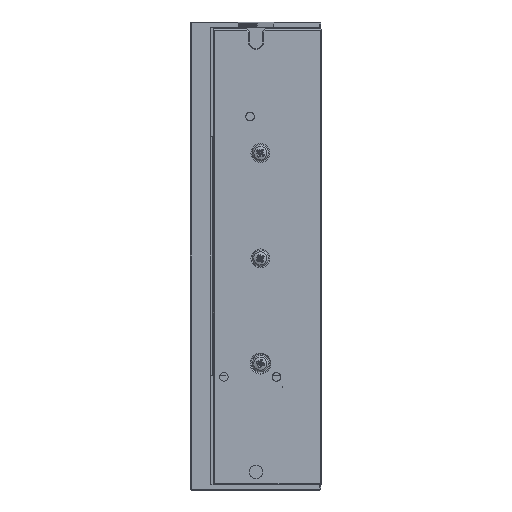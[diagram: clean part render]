
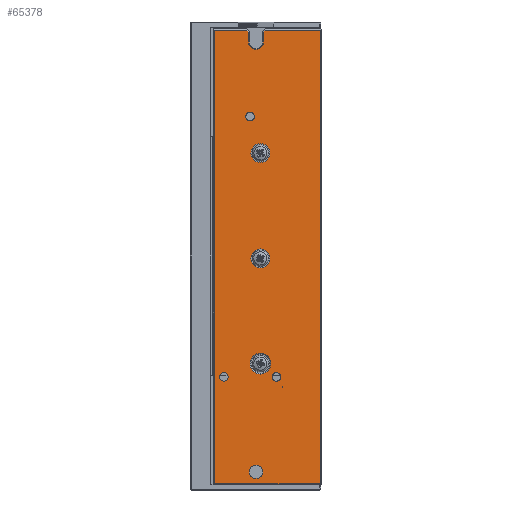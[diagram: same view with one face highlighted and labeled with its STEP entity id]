
A CAD part, front view. The second image highlights one B-rep face of the part: STEP entity #65378.
In plain terms, the highlighted planar face has unit normal (0, -1, 0).
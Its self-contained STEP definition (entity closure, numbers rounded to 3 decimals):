
#5373=FACE_BOUND('',#10188,.T.);
#5374=FACE_BOUND('',#10189,.T.);
#5375=FACE_BOUND('',#10190,.T.);
#5376=FACE_BOUND('',#10191,.T.);
#5377=FACE_BOUND('',#10192,.T.);
#5378=FACE_BOUND('',#10193,.T.);
#5379=FACE_BOUND('',#10194,.T.);
#5380=FACE_BOUND('',#10195,.T.);
#5729=CIRCLE('',#68517,3.55);
#5735=CIRCLE('',#68526,3.25);
#5739=CIRCLE('',#68532,3.25);
#5740=CIRCLE('',#68534,2.25);
#5742=CIRCLE('',#68538,2.55);
#5743=CIRCLE('',#68539,1.5);
#5744=CIRCLE('',#68540,1.5);
#5745=CIRCLE('',#68541,1.5);
#5746=CIRCLE('',#68542,1.5);
#7142=FACE_OUTER_BOUND('',#10187,.T.);
#10187=EDGE_LOOP('',(#47522,#47523,#47524,#47525,#47526,#47527,#47528,#47529,
#47530,#47531));
#10188=EDGE_LOOP('',(#47532));
#10189=EDGE_LOOP('',(#47533));
#10190=EDGE_LOOP('',(#47534));
#10191=EDGE_LOOP('',(#47535));
#10192=EDGE_LOOP('',(#47536));
#10193=EDGE_LOOP('',(#47537));
#10194=EDGE_LOOP('',(#47538,#47539));
#10195=EDGE_LOOP('',(#47540));
#13642=LINE('',#89521,#21365);
#13644=LINE('',#89529,#21367);
#13650=LINE('',#89542,#21373);
#13660=LINE('',#89591,#21383);
#13674=LINE('',#89654,#21397);
#13675=LINE('',#89655,#21398);
#13676=LINE('',#89657,#21399);
#13677=LINE('',#89659,#21400);
#13678=LINE('',#89661,#21401);
#13679=LINE('',#89664,#21402);
#21365=VECTOR('',#73252,36.2);
#21367=VECTOR('',#73260,155.);
#21373=VECTOR('',#73274,155.);
#21383=VECTOR('',#73322,0.159);
#21397=VECTOR('',#73388,0.883);
#21398=VECTOR('',#73389,11.026);
#21399=VECTOR('',#73390,18.826);
#21400=VECTOR('',#73391,0.883);
#21401=VECTOR('',#73392,3.376);
#21402=VECTOR('',#73395,3.376);
#29045=VERTEX_POINT('',#89518);
#29046=VERTEX_POINT('',#89520);
#29049=VERTEX_POINT('',#89527);
#29052=VERTEX_POINT('',#89541);
#29065=VERTEX_POINT('',#89588);
#29066=VERTEX_POINT('',#89590);
#29071=VERTEX_POINT('',#89606);
#29077=VERTEX_POINT('',#89622);
#29081=VERTEX_POINT('',#89633);
#29082=VERTEX_POINT('',#89637);
#29088=VERTEX_POINT('',#89652);
#29089=VERTEX_POINT('',#89653);
#29090=VERTEX_POINT('',#89656);
#29091=VERTEX_POINT('',#89658);
#29092=VERTEX_POINT('',#89660);
#29093=VERTEX_POINT('',#89662);
#29094=VERTEX_POINT('',#89665);
#29095=VERTEX_POINT('',#89667);
#29096=VERTEX_POINT('',#89669);
#37075=EDGE_CURVE('',#29046,#29045,#13642,.T.);
#37079=EDGE_CURVE('',#29049,#29045,#13644,.T.);
#37087=EDGE_CURVE('',#29046,#29052,#13650,.T.);
#37110=EDGE_CURVE('',#29066,#29065,#13660,.T.);
#37119=EDGE_CURVE('',#29071,#29071,#5729,.T.);
#37125=EDGE_CURVE('',#29077,#29077,#5735,.T.);
#37130=EDGE_CURVE('',#29081,#29081,#5739,.T.);
#37132=EDGE_CURVE('',#29082,#29082,#5740,.T.);
#37139=EDGE_CURVE('',#29088,#29089,#13674,.T.);
#37140=EDGE_CURVE('',#29088,#29052,#13675,.T.);
#37141=EDGE_CURVE('',#29049,#29090,#13676,.T.);
#37142=EDGE_CURVE('',#29091,#29090,#13677,.T.);
#37143=EDGE_CURVE('',#29092,#29091,#13678,.T.);
#37144=EDGE_CURVE('',#29093,#29092,#5742,.T.);
#37145=EDGE_CURVE('',#29089,#29093,#13679,.T.);
#37146=EDGE_CURVE('',#29094,#29094,#5743,.T.);
#37147=EDGE_CURVE('',#29095,#29095,#5744,.T.);
#37148=EDGE_CURVE('',#29096,#29096,#5745,.T.);
#37149=EDGE_CURVE('',#29065,#29066,#5746,.T.);
#47522=ORIENTED_EDGE('',*,*,#37139,.F.);
#47523=ORIENTED_EDGE('',*,*,#37140,.T.);
#47524=ORIENTED_EDGE('',*,*,#37087,.F.);
#47525=ORIENTED_EDGE('',*,*,#37075,.T.);
#47526=ORIENTED_EDGE('',*,*,#37079,.F.);
#47527=ORIENTED_EDGE('',*,*,#37141,.T.);
#47528=ORIENTED_EDGE('',*,*,#37142,.F.);
#47529=ORIENTED_EDGE('',*,*,#37143,.F.);
#47530=ORIENTED_EDGE('',*,*,#37144,.F.);
#47531=ORIENTED_EDGE('',*,*,#37145,.F.);
#47532=ORIENTED_EDGE('',*,*,#37146,.T.);
#47533=ORIENTED_EDGE('',*,*,#37147,.T.);
#47534=ORIENTED_EDGE('',*,*,#37148,.T.);
#47535=ORIENTED_EDGE('',*,*,#37132,.T.);
#47536=ORIENTED_EDGE('',*,*,#37130,.T.);
#47537=ORIENTED_EDGE('',*,*,#37125,.T.);
#47538=ORIENTED_EDGE('',*,*,#37110,.T.);
#47539=ORIENTED_EDGE('',*,*,#37149,.T.);
#47540=ORIENTED_EDGE('',*,*,#37119,.F.);
#63164=PLANE('',#68537);
#65378=ADVANCED_FACE('',(#7142,#5373,#5374,#5375,#5376,#5377,#5378,#5379,
#5380),#63164,.T.);
#68517=AXIS2_PLACEMENT_3D('',#89608,#73339,#73340);
#68526=AXIS2_PLACEMENT_3D('',#89623,#73357,#73358);
#68532=AXIS2_PLACEMENT_3D('',#89634,#73370,#73371);
#68534=AXIS2_PLACEMENT_3D('',#89638,#73375,#73376);
#68537=AXIS2_PLACEMENT_3D('',#89651,#73386,#73387);
#68538=AXIS2_PLACEMENT_3D('',#89663,#73393,#73394);
#68539=AXIS2_PLACEMENT_3D('',#89666,#73396,#73397);
#68540=AXIS2_PLACEMENT_3D('',#89668,#73398,#73399);
#68541=AXIS2_PLACEMENT_3D('',#89670,#73400,#73401);
#68542=AXIS2_PLACEMENT_3D('',#89671,#73402,#73403);
#73252=DIRECTION('',(1.,0.,0.));
#73260=DIRECTION('',(0.,0.,-1.));
#73274=DIRECTION('',(0.,0.,1.));
#73322=DIRECTION('',(0.,0.,1.));
#73339=DIRECTION('center_axis',(0.,-1.,0.));
#73340=DIRECTION('ref_axis',(0.,0.,
-1.));
#73357=DIRECTION('center_axis',(0.,1.,0.));
#73358=DIRECTION('ref_axis',(0.,0.,
-1.));
#73370=DIRECTION('center_axis',(0.,1.,0.));
#73371=DIRECTION('ref_axis',(0.,0.,
-1.));
#73375=DIRECTION('center_axis',(0.,1.,0.));
#73376=DIRECTION('ref_axis',(0.,0.,
-1.));
#73386=DIRECTION('center_axis',(0.,-1.,0.));
#73387=DIRECTION('ref_axis',(1.,0.,0.));
#73388=DIRECTION('',(0.707,0.,-0.707));
#73389=DIRECTION('',(-1.,0.,0.));
#73390=DIRECTION('',(-1.,0.,0.));
#73391=DIRECTION('',(0.707,0.,0.707));
#73392=DIRECTION('',(0.,0.,1.));
#73393=DIRECTION('center_axis',(0.,-1.,0.));
#73394=DIRECTION('ref_axis',(-1.,0.,0.));
#73395=DIRECTION('',(0.,0.,-1.));
#73396=DIRECTION('center_axis',(0.,1.,0.));
#73397=DIRECTION('ref_axis',(0.,0.,
-1.));
#73398=DIRECTION('center_axis',(0.,1.,0.));
#73399=DIRECTION('ref_axis',(0.,0.,
-1.));
#73400=DIRECTION('center_axis',(0.,1.,0.));
#73401=DIRECTION('ref_axis',(0.,0.,
-1.));
#73402=DIRECTION('center_axis',(0.,1.,0.));
#73403=DIRECTION('ref_axis',(0.,0.,
1.));
#89518=CARTESIAN_POINT('',(4.499,0.,-38.998));
#89520=CARTESIAN_POINT('',(-31.701,0.,-38.998));
#89521=CARTESIAN_POINT('',(-13.701,0.,-38.998));
#89527=CARTESIAN_POINT('',(4.499,0.,116.002));
#89529=CARTESIAN_POINT('',(4.499,0.,-39.498));
#89541=CARTESIAN_POINT('',(-31.701,0.,116.002));
#89542=CARTESIAN_POINT('',(-31.701,0.,-39.498));
#89588=CARTESIAN_POINT('',(-8.503,0.,-5.919));
#89590=CARTESIAN_POINT('',(-8.503,0.,-6.078));
#89591=CARTESIAN_POINT('',(-8.503,0.,-8.529));
#89606=CARTESIAN_POINT('',(-16.001,0.,5.552));
#89608=CARTESIAN_POINT('Origin',(-16.001,0.,
2.002));
#89622=CARTESIAN_POINT('',(-16.001,0.,41.252));
#89623=CARTESIAN_POINT('Origin',(-16.001,0.,
38.002));
#89633=CARTESIAN_POINT('',(-16.001,0.,77.252));
#89634=CARTESIAN_POINT('Origin',(-16.001,0.,
74.002));
#89637=CARTESIAN_POINT('',(-17.501,0.,-32.748));
#89638=CARTESIAN_POINT('Origin',(-17.501,0.,
-34.998));
#89651=CARTESIAN_POINT('Origin',(-32.201,0.,
-39.498));
#89652=CARTESIAN_POINT('',(-20.675,0.,116.002));
#89653=CARTESIAN_POINT('',(-20.051,0.,115.377));
#89654=CARTESIAN_POINT('',(15.425,0.,79.902));
#89655=CARTESIAN_POINT('',(-13.701,0.,116.002));
#89656=CARTESIAN_POINT('',(-14.326,0.,116.002));
#89657=CARTESIAN_POINT('',(-13.701,0.,116.002));
#89658=CARTESIAN_POINT('',(-14.951,0.,115.377));
#89659=CARTESIAN_POINT('',(-57.776,0.,72.552));
#89660=CARTESIAN_POINT('',(-14.951,0.,112.002));
#89661=CARTESIAN_POINT('',(-14.951,0.,38.502));
#89662=CARTESIAN_POINT('',(-20.051,0.,112.002));
#89663=CARTESIAN_POINT('Origin',(-17.501,0.,
112.002));
#89664=CARTESIAN_POINT('',(-20.051,0.,36.252));
#89665=CARTESIAN_POINT('',(-28.501,0.,-0.998));
#89666=CARTESIAN_POINT('Origin',(-28.501,0.,
-2.498));
#89667=CARTESIAN_POINT('',(-10.501,0.,-0.998));
#89668=CARTESIAN_POINT('Origin',(-10.501,0.,
-2.498));
#89669=CARTESIAN_POINT('',(-19.501,0.,88.002));
#89670=CARTESIAN_POINT('Origin',(-19.501,0.,
86.502));
#89671=CARTESIAN_POINT('Origin',(-10.001,0.,
-5.998));
